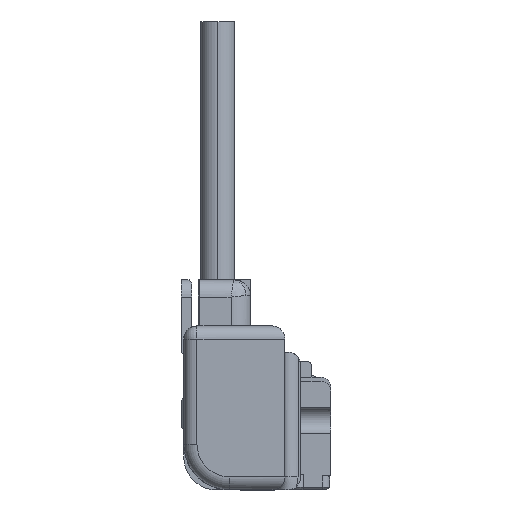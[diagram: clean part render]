
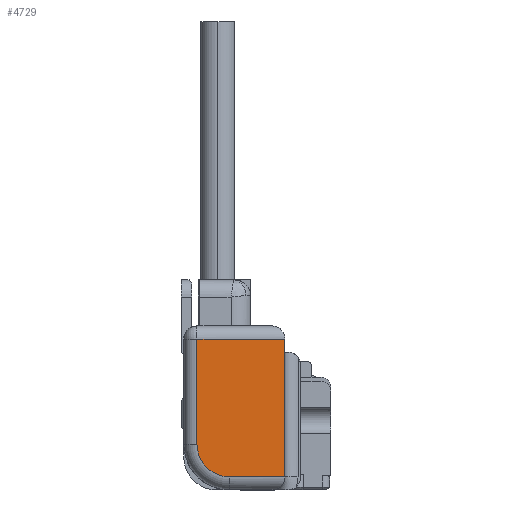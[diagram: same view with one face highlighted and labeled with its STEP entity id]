
A CAD part, left-side view. The second image highlights one B-rep face of the part: STEP entity #4729.
In plain terms, the highlighted planar face has unit normal (-1, 0, 0).
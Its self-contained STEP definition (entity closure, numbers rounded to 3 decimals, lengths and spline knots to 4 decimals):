
#1885 = EDGE_LOOP ( 'NONE', ( #10258, #10257, #10089, #10222, #10094 ) ) ;
#3726 = VERTEX_POINT ( 'NONE', #17264 ) ;
#3998 = VERTEX_POINT ( 'NONE', #17792 ) ;
#4729 = ADVANCED_FACE ( 'NONE', ( #18931 ), #18934, .T. ) ;
#7906 = EDGE_CURVE ( 'NONE', #15138, #3726, #32310, .T. ) ;
#7920 = EDGE_CURVE ( 'NONE', #3998, #42320, #30521, .T. ) ;
#7921 = EDGE_CURVE ( 'NONE', #3998, #15207, #32357, .T. ) ;
#7922 = EDGE_CURVE ( 'NONE', #15207, #15138, #32362, .T. ) ;
#7923 = EDGE_CURVE ( 'NONE', #3726, #42320, #32365, .T. ) ;
#10089 = ORIENTED_EDGE ( 'NONE', *, *, #7922, .T. ) ;
#10094 = ORIENTED_EDGE ( 'NONE', *, *, #7923, .T. ) ;
#10222 = ORIENTED_EDGE ( 'NONE', *, *, #7906, .T. ) ;
#10257 = ORIENTED_EDGE ( 'NONE', *, *, #7921, .T. ) ;
#10258 = ORIENTED_EDGE ( 'NONE', *, *, #7920, .F. ) ;
#15138 = VERTEX_POINT ( 'NONE', #40639 ) ;
#15207 = VERTEX_POINT ( 'NONE', #40711 ) ;
#15868 = AXIS2_PLACEMENT_3D ( 'NONE', #18926, #18937, #18938 ) ;
#17264 = CARTESIAN_POINT ( 'NONE',  ( -8.5, 1.12, 0.62 ) ) ;
#17792 = CARTESIAN_POINT ( 'NONE',  ( -8.5, 0.87, -0.43 ) ) ;
#18926 = CARTESIAN_POINT ( 'NONE',  ( -8.5, 1.22, 0.3 ) ) ;
#18931 = FACE_OUTER_BOUND ( 'NONE', #1885, .T. ) ;
#18934 = PLANE ( 'NONE',  #15868 ) ;
#18937 = DIRECTION ( 'NONE',  ( -1., 0., 0. ) ) ;
#18938 = DIRECTION ( 'NONE',  ( 0., 0., 1. ) ) ;
#30495 = VECTOR ( 'NONE', #32315, 1000. ) ;
#30516 = VECTOR ( 'NONE', #32361, 1000. ) ;
#30521 = CIRCLE ( 'NONE', #30525, 0.25 ) ;
#30525 = AXIS2_PLACEMENT_3D ( 'NONE', #32358, #32359, #32360 ) ;
#30526 = VECTOR ( 'NONE', #32364, 1000. ) ;
#30527 = VECTOR ( 'NONE', #32367, 1000. ) ;
#32309 = CARTESIAN_POINT ( 'NONE',  ( -8.5, 1.22, 0.62 ) ) ;
#32310 = LINE ( 'NONE', #32309, #30495 ) ;
#32315 = DIRECTION ( 'NONE',  ( 0., 1., 0. ) ) ;
#32352 = CARTESIAN_POINT ( 'NONE',  ( -8.5, 1.22, -0.43 ) ) ;
#32357 = LINE ( 'NONE', #32352, #30516 ) ;
#32358 = CARTESIAN_POINT ( 'NONE',  ( -8.5, 0.87, -0.18 ) ) ;
#32359 = DIRECTION ( 'NONE',  ( 1., 0., 0. ) ) ;
#32360 = DIRECTION ( 'NONE',  ( 0., 0., 1. ) ) ;
#32361 = DIRECTION ( 'NONE',  ( 0., -1., 0. ) ) ;
#32362 = LINE ( 'NONE', #32363, #30526 ) ;
#32363 = CARTESIAN_POINT ( 'NONE',  ( -8.5, 0.45, -0.53 ) ) ;
#32364 = DIRECTION ( 'NONE',  ( 0., 0., 1. ) ) ;
#32365 = LINE ( 'NONE', #32366, #30527 ) ;
#32366 = CARTESIAN_POINT ( 'NONE',  ( -8.5, 1.12, 0.3 ) ) ;
#32367 = DIRECTION ( 'NONE',  ( 0., 0., -1. ) ) ;
#40639 = CARTESIAN_POINT ( 'NONE',  ( -8.5, 0.45, 0.62 ) ) ;
#40711 = CARTESIAN_POINT ( 'NONE',  ( -8.5, 0.45, -0.43 ) ) ;
#41099 = CARTESIAN_POINT ( 'NONE',  ( -8.5, 1.12, -0.18 ) ) ;
#42320 = VERTEX_POINT ( 'NONE', #41099 ) ;
